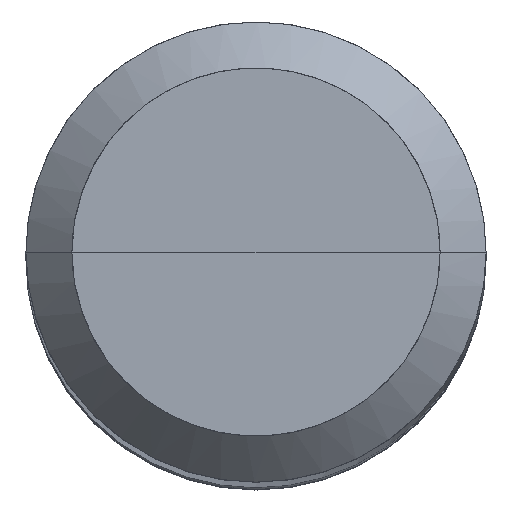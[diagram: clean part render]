
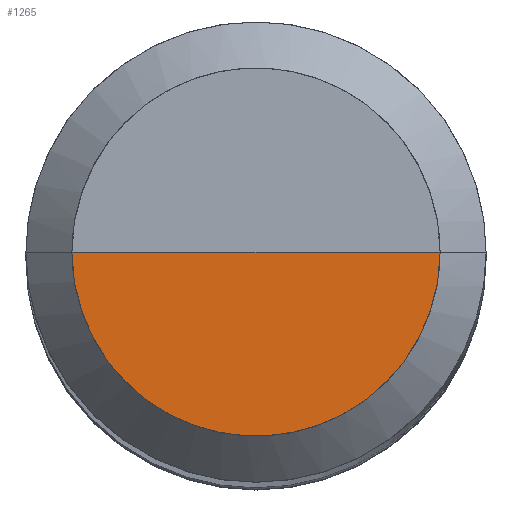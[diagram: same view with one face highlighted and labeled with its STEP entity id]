
A CAD part, top view. The second image highlights one B-rep face of the part: STEP entity #1265.
In plain terms, the highlighted free-form (B-spline) face has degree [1, 2] with [2, 5] control points.
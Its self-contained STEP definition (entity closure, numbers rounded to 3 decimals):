
#749=CARTESIAN_POINT('',(4.0,0.0,65.0));
#753=CARTESIAN_POINT('',(-4.0,0.0,65.0));
#754=CARTESIAN_POINT('',(0.0,0.0,65.0));
#764=CARTESIAN_POINT('',(-4.0,-4.0,65.0));
#765=CARTESIAN_POINT('',(0.0,-4.0,65.0));
#766=CARTESIAN_POINT('',(4.0,-4.0,65.0));
#1250=(
BOUNDED_SURFACE()
B_SPLINE_SURFACE(1,2,(
(#753,#764,#765,#766,#749),
(#754,#754,#754,#754,#754)
), .UNSPECIFIED.,.F.,.F.,.F.)
B_SPLINE_SURFACE_WITH_KNOTS((2,2),(3,2,3),(
0.0,1.0),(
0.0,0.5,1.0), .UNSPECIFIED.)
GEOMETRIC_REPRESENTATION_ITEM()
RATIONAL_B_SPLINE_SURFACE(((1.0,0.707,1.0,0.707,1.0),
(1.0,0.707,1.0,0.707,1.0)
))
REPRESENTATION_ITEM('')
SURFACE()
);
#1251=(
BOUNDED_CURVE()
B_SPLINE_CURVE(2,(#749,#766,#765,#764,#753),.UNSPECIFIED.,.F.,.F.)
B_SPLINE_CURVE_WITH_KNOTS((3,2,3),
(0.0,0.5,1.0),.UNSPECIFIED.)
CURVE()
GEOMETRIC_REPRESENTATION_ITEM()
RATIONAL_B_SPLINE_CURVE((1.0,0.707,1.0,0.707,1.0))
REPRESENTATION_ITEM('')
);
#1252=(
BOUNDED_CURVE()
B_SPLINE_CURVE(1,(#753,#754),.UNSPECIFIED.,.F.,.F.)
B_SPLINE_CURVE_WITH_KNOTS((2,2),
(0.0,1.0),.UNSPECIFIED.)
CURVE()
GEOMETRIC_REPRESENTATION_ITEM()
RATIONAL_B_SPLINE_CURVE((1.0,1.0))
REPRESENTATION_ITEM('')
);
#1253=(
BOUNDED_CURVE()
B_SPLINE_CURVE(1,(#754,#749),.UNSPECIFIED.,.F.,.F.)
B_SPLINE_CURVE_WITH_KNOTS((2,2),
(0.0,1.0),.UNSPECIFIED.)
CURVE()
GEOMETRIC_REPRESENTATION_ITEM()
RATIONAL_B_SPLINE_CURVE((1.0,1.0))
REPRESENTATION_ITEM('')
);
#1254=VERTEX_POINT('',#749);
#1255=VERTEX_POINT('',#753);
#1256=VERTEX_POINT('',#754);
#1257=EDGE_CURVE('',#1254,#1255,#1251,.T.);
#1258=EDGE_CURVE('',#1255,#1256,#1252,.T.);
#1259=EDGE_CURVE('',#1256,#1254,#1253,.T.);
#1260=ORIENTED_EDGE('',*,*,#1257,.T.);
#1261=ORIENTED_EDGE('',*,*,#1258,.T.);
#1262=ORIENTED_EDGE('',*,*,#1259,.T.);
#1263=EDGE_LOOP('',(#1260,#1261,#1262));
#1264=FACE_OUTER_BOUND('',#1263,.T.);
#1265=ADVANCED_FACE('',(#1264),#1250,.T.);
